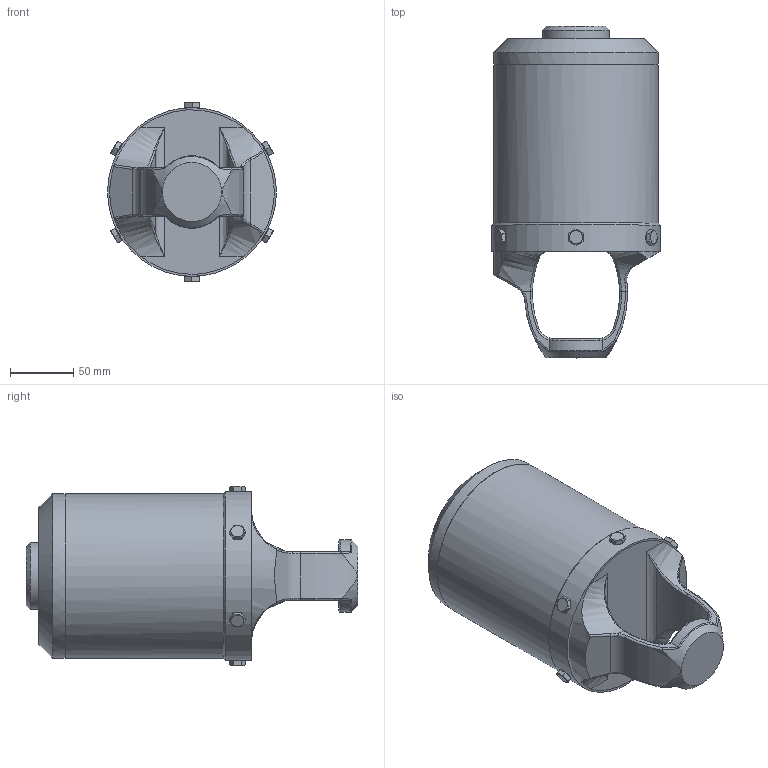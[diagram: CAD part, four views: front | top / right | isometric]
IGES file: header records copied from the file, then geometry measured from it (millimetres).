
Global section: file name: W60 5 IN ACTUATOR; native system: Autodesk Inventor 2020; preprocessor: unknown; date: 20210423.112907; units: inch
Bounding box: 133.15 x 261.85 x 141.83 mm (x, y, z)
Volume: 2979908.7 mm3; surface area: 190273.2 mm2
Topology: 9 solids, 9 shells, 180 faces, 461 edges, 309 vertices
Faces by surface type: bspline 180
